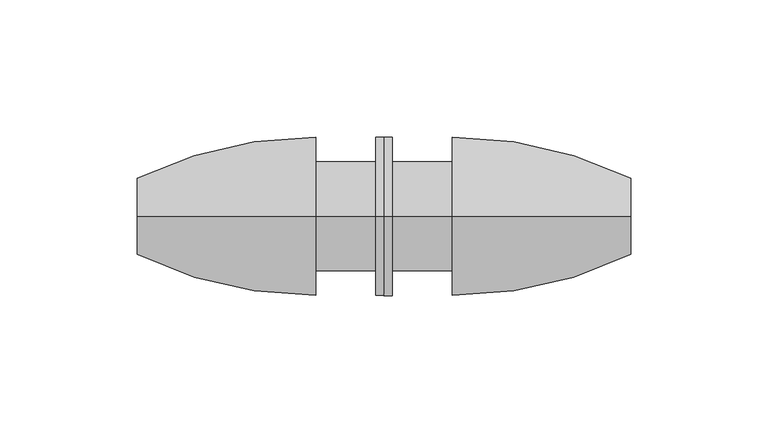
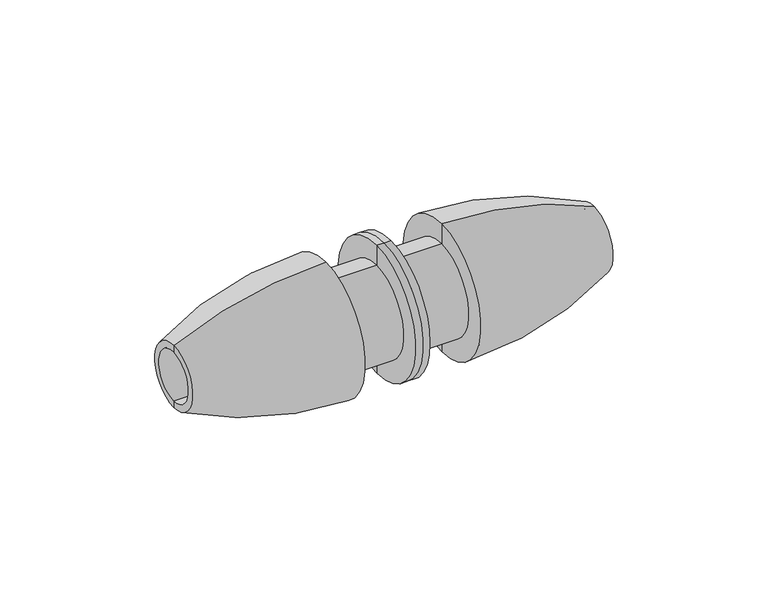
"""IFC4 building model written with IfcOpenShell, lengths in millimetres: pipe fitting geometry, Plumbing_Pipe-Fittings_Plasson_Universal-Slip-Repair-Coupler_17610 : Plumbing_Pipe-Fittings_Plasson_Universal-Slip-Repair-Coupler_17610."""

from ifc_helpers import new_model, si_unit, point, frame, origin, place, context, project, spatial, polyline, circle_curve, ellipse_curve, trimmed, source, transform, mapped, element, save
from ifc_brep_helpers import plane_surface, cylinder_surface, revolved_surface, advanced_brep


def pipe_fitting_88a6670d(model_context):
    return source(origin(), model_context, "Body", "AdvancedBrep", [
        advanced_brep(
        [(-1.6182864, 0.0, -11.0), (-1.6182864, 0.0, 11.0), (-88.6182864, 0.0, 11.0), (-88.6182864, 0.0, -11.0), (-1.6182864, 0.0, -29.0), (-1.6182864, 0.0, 29.0), (1.3817136, 0.0, 29.0), (1.3817136, 0.0, -29.0), (-1.6182864, 0.0, -20.0), (-1.6182864, 0.0, 20.0), (-23.4516197, 0.0, -20.0), (-23.4516197, 0.0, 20.0), (-23.4516197, 0.0, -29.0), (-23.4516197, 0.0, 29.0), (-88.6182864, 0.0, 14.0), (-88.6182864, 0.0, -14.0), (-1.6182864, 0.0, 0.0), (4.3817136, 0.0, -11.0), (4.3817136, 0.0, 11.0), (4.3817136, 0.0, 0.0), (91.3817136, 0.0, -11.0), (91.3817136, 0.0, 11.0), (91.3817136, 0.0, -14.0), (91.3817136, 0.0, 14.0), (26.215047, 0.0, -29.0), (26.215047, 0.0, 29.0), (26.215047, 0.0, -20.0), (26.215047, 0.0, 20.0), (4.3817136, 0.0, -20.0), (4.3817136, 0.0, 20.0), (4.3817136, 0.0, -29.0), (4.3817136, 0.0, 29.0)],
        [
            (0, 1, circle_curve(frame((-1.6182864, 0.0, 0.0), z_axis=(1.0, 0.0, 0.0), x_axis=(0.0, 0.0, 1.0)), 11.0)),
            (1, 2),
            (2, 3, circle_curve(frame((-88.6182864, 0.0, 0.0), z_axis=(-1.0, 0.0, 0.0), x_axis=(0.0, 0.0, 1.0)), 11.0)),
            (3, 0),
            (1, 0, circle_curve(frame((-1.6182864, 0.0, 0.0), z_axis=(1.0, 0.0, 0.0), x_axis=(0.0, 0.0, 1.0)), 11.0)),
            (3, 2, circle_curve(frame((-88.6182864, 0.0, 0.0), z_axis=(-1.0, 0.0, 0.0), x_axis=(0.0, 0.0, 1.0)), 11.0)),
            (4, 5, circle_curve(frame((-1.6182864, 0.0, 0.0), z_axis=(1.0, 0.0, 0.0), x_axis=(0.0, 0.0, 1.0)), 29.0)),
            (5, 6),
            (6, 7, circle_curve(frame((1.3817136, 0.0, 0.0), z_axis=(-1.0, 0.0, 0.0), x_axis=(0.0, 0.0, 1.0)), 29.0)),
            (7, 4),
            (5, 4, circle_curve(frame((-1.6182864, 0.0, 0.0), z_axis=(1.0, 0.0, 0.0), x_axis=(0.0, 0.0, 1.0)), 29.0)),
            (7, 6, circle_curve(frame((1.3817136, 0.0, 0.0), z_axis=(-1.0, 0.0, 0.0), x_axis=(0.0, 0.0, 1.0)), 29.0)),
            (4, 8),
            (8, 9, circle_curve(frame((-1.6182864, 0.0, 0.0), z_axis=(1.0, 0.0, 0.0), x_axis=(0.0, 0.0, 1.0)), 20.0)),
            (9, 5),
            (9, 8, circle_curve(frame((-1.6182864, 0.0, 0.0), z_axis=(1.0, 0.0, 0.0), x_axis=(0.0, 0.0, 1.0)), 20.0)),
            (8, 10),
            (10, 11, circle_curve(frame((-23.4516197, 0.0, 0.0), z_axis=(1.0, 0.0, 0.0), x_axis=(0.0, 0.0, 1.0)), 20.0)),
            (11, 9),
            (11, 10, circle_curve(frame((-23.4516197, 0.0, 0.0), z_axis=(1.0, 0.0, 0.0), x_axis=(0.0, 0.0, 1.0)), 20.0)),
            (10, 12),
            (12, 13, circle_curve(frame((-23.4516197, 0.0, 0.0), z_axis=(1.0, 0.0, 0.0), x_axis=(0.0, 0.0, 1.0)), 29.0)),
            (13, 11),
            (13, 12, circle_curve(frame((-23.4516197, 0.0, 0.0), z_axis=(1.0, 0.0, 0.0), x_axis=(0.0, 0.0, 1.0)), 29.0)),
            (2, 14),
            (14, 15, circle_curve(frame((-88.6182864, 0.0, 0.0), z_axis=(-1.0, 0.0, 0.0), x_axis=(0.0, 0.0, 1.0)), 14.0)),
            (15, 3),
            (15, 14, circle_curve(frame((-88.6182864, 0.0, 0.0), z_axis=(-1.0, 0.0, 0.0), x_axis=(0.0, 0.0, 1.0)), 14.0)),
            (12, 15, circle_curve(frame((-23.4516197, 0.0, 120.0564815), z_axis=(0.0, 1.0, 0.0), x_axis=(1.0, 0.0, 0.0)), 149.0564815)),
            (14, 13, circle_curve(frame((-23.4516197, 0.0, -120.0564815), z_axis=(0.0, 1.0, 0.0), x_axis=(1.0, 0.0, 0.0)), 149.0564815)),
            (0, 16),
            (16, 1),
            (17, 18, circle_curve(frame((4.3817136, 0.0, 0.0), z_axis=(1.0, 0.0, 0.0), x_axis=(0.0, 0.0, 1.0)), 11.0)),
            (18, 19),
            (19, 17),
            (18, 17, circle_curve(frame((4.3817136, 0.0, 0.0), z_axis=(1.0, 0.0, 0.0), x_axis=(0.0, 0.0, 1.0)), 11.0)),
            (17, 20),
            (20, 21, circle_curve(frame((91.3817136, 0.0, 0.0), z_axis=(1.0, 0.0, 0.0), x_axis=(0.0, 0.0, 1.0)), 11.0)),
            (21, 18),
            (21, 20, circle_curve(frame((91.3817136, 0.0, 0.0), z_axis=(1.0, 0.0, 0.0), x_axis=(0.0, 0.0, 1.0)), 11.0)),
            (20, 22),
            (22, 23, circle_curve(frame((91.3817136, 0.0, 0.0), z_axis=(1.0, 0.0, 0.0), x_axis=(0.0, 0.0, 1.0)), 14.0)),
            (23, 21),
            (23, 22, circle_curve(frame((91.3817136, 0.0, 0.0), z_axis=(1.0, 0.0, 0.0), x_axis=(0.0, 0.0, 1.0)), 14.0)),
            (22, 24, circle_curve(frame((26.215047, 0.0, 120.0564815), z_axis=(0.0, 1.0, 0.0), x_axis=(1.0, 0.0, 0.0)), 149.0564815)),
            (24, 25, circle_curve(frame((26.215047, 0.0, 0.0), z_axis=(1.0, 0.0, 0.0), x_axis=(0.0, 0.0, 1.0)), 29.0)),
            (25, 23, circle_curve(frame((26.215047, 0.0, -120.0564815), z_axis=(0.0, 1.0, 0.0), x_axis=(1.0, 0.0, 0.0)), 149.0564815)),
            (25, 24, circle_curve(frame((26.215047, 0.0, 0.0), z_axis=(1.0, 0.0, 0.0), x_axis=(0.0, 0.0, 1.0)), 29.0)),
            (24, 26),
            (26, 27, circle_curve(frame((26.215047, 0.0, 0.0), z_axis=(1.0, 0.0, 0.0), x_axis=(0.0, 0.0, 1.0)), 20.0)),
            (27, 25),
            (27, 26, circle_curve(frame((26.215047, 0.0, 0.0), z_axis=(1.0, 0.0, 0.0), x_axis=(0.0, 0.0, 1.0)), 20.0)),
            (26, 28),
            (28, 29, circle_curve(frame((4.3817136, 0.0, 0.0), z_axis=(1.0, 0.0, 0.0), x_axis=(0.0, 0.0, 1.0)), 20.0)),
            (29, 27),
            (29, 28, circle_curve(frame((4.3817136, 0.0, 0.0), z_axis=(1.0, 0.0, 0.0), x_axis=(0.0, 0.0, 1.0)), 20.0)),
            (28, 30),
            (30, 31, circle_curve(frame((4.3817136, 0.0, 0.0), z_axis=(1.0, 0.0, 0.0), x_axis=(0.0, 0.0, 1.0)), 29.0)),
            (31, 29),
            (31, 30, circle_curve(frame((4.3817136, 0.0, 0.0), z_axis=(1.0, 0.0, 0.0), x_axis=(0.0, 0.0, 1.0)), 29.0)),
            (30, 7),
            (6, 31),
        ],
        [
            revolved_surface(polyline([(-88.6182864, 0.0, 11.0), (-1.6182864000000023, 0.0, 11.0)]), (-38.6182864, 0.0, 0.0), (-1.0, 0.0, 0.0)),
            cylinder_surface(frame((-38.6182864, 0.0, 0.0), z_axis=(-1.0, 0.0, 0.0), x_axis=(0.0, 0.0, 1.0)), 29.0),
            plane_surface(frame((-1.6182864, 0.0, 0.0), z_axis=(-1.0, 0.0, 0.0), x_axis=(0.0, 0.0, 1.0))),
            cylinder_surface(frame((-38.6182864, 0.0, 0.0), z_axis=(-1.0, 0.0, 0.0), x_axis=(0.0, 0.0, 1.0)), 20.0),
            plane_surface(frame((-23.4516197, 0.0, 0.0), z_axis=(1.0, 0.0, 0.0), x_axis=(0.0, 0.0, 1.0))),
            plane_surface(frame((-88.6182864, 0.0, 0.0), z_axis=(-1.0, 0.0, 0.0), x_axis=(0.0, 0.0, 1.0))),
            revolved_surface(trimmed(ellipse_curve(frame((-23.4516197, 0.0, -120.0564815), z_axis=(0.0, -1.0, 0.0), x_axis=(1.0, 0.0, 0.0)), 149.0564815, 149.0564815), [point((-23.4516197, 0.0, 29.0))], [point((-88.6182864, 0.0, 14.0))], True, "CARTESIAN"), (-38.6182864, 0.0, 0.0), (-1.0, 0.0, 0.0)),
            plane_surface(frame((4.3817136, 0.0, 0.0), z_axis=(1.0, 0.0, 0.0), x_axis=(0.0, 0.0, 1.0))),
            revolved_surface(polyline([(4.381713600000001, 0.0, 11.0), (91.3817136, 0.0, 11.0)]), (18.9885735, 0.0, 0.0), (-1.0, 0.0, 0.0)),
            plane_surface(frame((91.3817136, 0.0, 0.0), z_axis=(1.0, 0.0, 0.0), x_axis=(0.0, 0.0, 1.0))),
            revolved_surface(trimmed(ellipse_curve(frame((26.215047, 0.0, -120.0564815), z_axis=(0.0, -1.0, 0.0), x_axis=(1.0, 0.0, 0.0)), 149.0564815, 149.0564815), [point((91.3817136, 0.0, 14.0))], [point((26.215047, 0.0, 29.0))], True, "CARTESIAN"), (18.9885735, 0.0, 0.0), (-1.0, 0.0, 0.0)),
            plane_surface(frame((26.215047, 0.0, 0.0), z_axis=(-1.0, 0.0, 0.0), x_axis=(0.0, 0.0, 1.0))),
            cylinder_surface(frame((18.9885735, 0.0, 0.0), z_axis=(-1.0, 0.0, 0.0), x_axis=(0.0, 0.0, 1.0)), 20.0),
            cylinder_surface(frame((18.9885735, 0.0, 0.0), z_axis=(-1.0, 0.0, 0.0), x_axis=(0.0, 0.0, 1.0)), 29.0),
        ],
        [
            (0, [[1, 2, 3, 4]]),
            (0, [[-2, 5, -4, 6]]),
            (1, [[7, 8, 9, 10]]),
            (1, [[-8, 11, -10, 12]]),
            (2, [[-7, 13, 14, 15]]),
            (2, [[-11, -15, 16, -13]]),
            (3, [[-14, 17, 18, 19]]),
            (3, [[-16, -19, 20, -17]]),
            (4, [[-18, 21, 22, 23]]),
            (4, [[-20, -23, 24, -21]]),
            (5, [[-3, 25, 26, 27]]),
            (5, [[-6, -27, 28, -25]]),
            (6, [[-22, 29, -26, 30]]),
            (6, [[-24, -30, -28, -29]]),
            (2, [[-1, 31, 32]]),
            (2, [[-5, -32, -31]]),
            (7, [[33, 34, 35]]),
            (7, [[-34, 36, -35]]),
            (8, [[-33, 37, 38, 39]]),
            (8, [[-36, -39, 40, -37]]),
            (9, [[-38, 41, 42, 43]]),
            (9, [[-40, -43, 44, -41]]),
            (10, [[-42, 45, 46, 47]]),
            (10, [[-44, -47, 48, -45]]),
            (11, [[-46, 49, 50, 51]]),
            (11, [[-48, -51, 52, -49]]),
            (12, [[-50, 53, 54, 55]]),
            (12, [[-52, -55, 56, -53]]),
            (7, [[-54, 57, 58, 59]]),
            (7, [[-56, -59, 60, -57]]),
            (13, [[-58, 61, -9, 62]]),
            (13, [[-60, -62, -12, -61]]),
        ],
    ),
    ])


if __name__ == "__main__":
    model = new_model("IFC4")
    model_context = context("Model", 3, world=origin())
    ifc_project = project(units=[si_unit("LENGTHUNIT", "METRE", prefix="MILLI")], contexts=[model_context])
    site = spatial("IfcSite", under=ifc_project)
    building = spatial("IfcBuilding", under=site)
    placement = place(None, origin())
    pipe_fitting_shape = pipe_fitting_88a6670d(model_context)
    element("IfcPipeFitting", 1, ObjectType="Plumbing_Pipe-Fittings_Plasson_Universal-Slip-Repair-Coupler_17610 : Plumbing_Pipe-Fittings_Plasson_Universal-Slip-Repair-Coupler_17610", at=placement, inside=building, context=model_context, shape_type="MappedRepresentation", body=[
        mapped(pipe_fitting_shape, transform((0.0, 0.0, 0.0), x_axis=(1.0, 0.0, 0.0), y_axis=(0.0, 1.0, 0.0), z_axis=(0.0, 0.0, 1.0))),
    ])
    save(model, "model.ifc")
